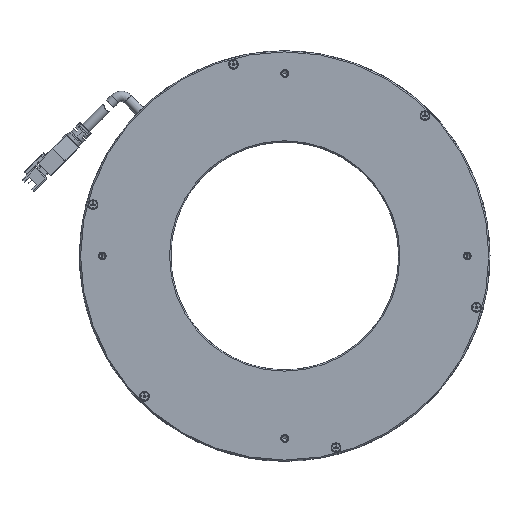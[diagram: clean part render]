
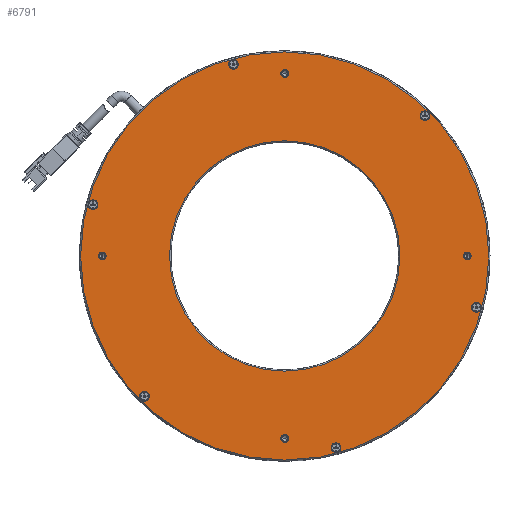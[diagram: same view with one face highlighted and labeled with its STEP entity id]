
A CAD part, top view. The second image highlights one B-rep face of the part: STEP entity #6791.
In plain terms, the highlighted planar face has unit normal (0, 0, 1).
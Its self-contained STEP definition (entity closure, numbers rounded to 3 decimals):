
#505=CARTESIAN_POINT('',(0.,0.,2.));
#506=DIRECTION('',(0.,0.,-1.));
#507=DIRECTION('',(0.,1.,0.));
#508=AXIS2_PLACEMENT_3D('',#505,#506,#507);
#510=CARTESIAN_POINT('',(0.,0.,2.));
#511=DIRECTION('',(0.,0.,-1.));
#512=DIRECTION('',(0.,-1.,0.));
#513=AXIS2_PLACEMENT_3D('',#510,#511,#512);
#515=CARTESIAN_POINT('',(-80.,0.,2.));
#516=DIRECTION('',(0.,0.,-1.));
#517=DIRECTION('',(0.,-1.,0.));
#518=AXIS2_PLACEMENT_3D('',#515,#516,#517);
#520=CARTESIAN_POINT('',(-80.,0.,2.));
#521=DIRECTION('',(0.,0.,-1.));
#522=DIRECTION('',(0.,1.,0.));
#523=AXIS2_PLACEMENT_3D('',#520,#521,#522);
#525=CARTESIAN_POINT('',(0.,-80.,2.));
#526=DIRECTION('',(0.,0.,-1.));
#527=DIRECTION('',(1.,0.,0.));
#528=AXIS2_PLACEMENT_3D('',#525,#526,#527);
#530=CARTESIAN_POINT('',(0.,-80.,2.));
#531=DIRECTION('',(0.,0.,-1.));
#532=DIRECTION('',(-1.,0.,0.));
#533=AXIS2_PLACEMENT_3D('',#530,#531,#532);
#535=CARTESIAN_POINT('',(80.,0.,2.));
#536=DIRECTION('',(0.,0.,-1.));
#537=DIRECTION('',(0.,1.,0.));
#538=AXIS2_PLACEMENT_3D('',#535,#536,#537);
#540=CARTESIAN_POINT('',(80.,0.,2.));
#541=DIRECTION('',(0.,0.,-1.));
#542=DIRECTION('',(0.,-1.,0.));
#543=AXIS2_PLACEMENT_3D('',#540,#541,#542);
#545=CARTESIAN_POINT('',(0.,80.,2.));
#546=DIRECTION('',(0.,0.,-1.));
#547=DIRECTION('',(-1.,0.,0.));
#548=AXIS2_PLACEMENT_3D('',#545,#546,#547);
#550=CARTESIAN_POINT('',(0.,80.,2.));
#551=DIRECTION('',(0.,0.,-1.));
#552=DIRECTION('',(1.,0.,0.));
#553=AXIS2_PLACEMENT_3D('',#550,#551,#552);
#555=CARTESIAN_POINT('',(-22.517,84.036,2.));
#556=DIRECTION('',(0.,0.,-1.));
#557=DIRECTION('',(-0.5,-0.866,0.));
#558=AXIS2_PLACEMENT_3D('',#555,#556,#557);
#560=CARTESIAN_POINT('',(-22.517,84.036,2.));
#561=DIRECTION('',(0.,0.,-1.));
#562=DIRECTION('',(0.5,0.866,0.));
#563=AXIS2_PLACEMENT_3D('',#560,#561,#562);
#565=CARTESIAN_POINT('',(-84.036,22.517,2.));
#566=DIRECTION('',(0.,0.,-1.));
#567=DIRECTION('',(0.5,-0.866,0.));
#568=AXIS2_PLACEMENT_3D('',#565,#566,#567);
#570=CARTESIAN_POINT('',(-84.036,22.517,2.));
#571=DIRECTION('',(0.,0.,-1.));
#572=DIRECTION('',(-0.5,0.866,0.));
#573=AXIS2_PLACEMENT_3D('',#570,#571,#572);
#575=CARTESIAN_POINT('',(-61.518,-61.518,2.));
#576=DIRECTION('',(0.,0.,-1.));
#577=DIRECTION('',(1.,0.,0.));
#578=AXIS2_PLACEMENT_3D('',#575,#576,#577);
#580=CARTESIAN_POINT('',(-61.518,-61.518,2.));
#581=DIRECTION('',(0.,0.,-1.));
#582=DIRECTION('',(-1.,0.,0.));
#583=AXIS2_PLACEMENT_3D('',#580,#581,#582);
#585=CARTESIAN_POINT('',(22.517,-84.036,2.));
#586=DIRECTION('',(0.,0.,-1.));
#587=DIRECTION('',(0.5,0.866,0.));
#588=AXIS2_PLACEMENT_3D('',#585,#586,#587);
#590=CARTESIAN_POINT('',(22.517,-84.036,2.));
#591=DIRECTION('',(0.,0.,-1.));
#592=DIRECTION('',(-0.5,-0.866,0.));
#593=AXIS2_PLACEMENT_3D('',#590,#591,#592);
#595=CARTESIAN_POINT('',(84.036,-22.517,2.));
#596=DIRECTION('',(0.,0.,-1.));
#597=DIRECTION('',(-0.5,0.866,0.));
#598=AXIS2_PLACEMENT_3D('',#595,#596,#597);
#600=CARTESIAN_POINT('',(84.036,-22.517,2.));
#601=DIRECTION('',(0.,0.,-1.));
#602=DIRECTION('',(0.5,-0.866,0.));
#603=AXIS2_PLACEMENT_3D('',#600,#601,#602);
#605=CARTESIAN_POINT('',(61.518,61.518,2.));
#606=DIRECTION('',(0.,0.,-1.));
#607=DIRECTION('',(-1.,0.,0.));
#608=AXIS2_PLACEMENT_3D('',#605,#606,#607);
#610=CARTESIAN_POINT('',(61.518,61.518,2.));
#611=DIRECTION('',(0.,0.,-1.));
#612=DIRECTION('',(1.,0.,0.));
#613=AXIS2_PLACEMENT_3D('',#610,#611,#612);
#615=CARTESIAN_POINT('',(0.,0.,2.));
#616=DIRECTION('',(0.,0.,1.));
#617=DIRECTION('',(0.,-1.,0.));
#618=AXIS2_PLACEMENT_3D('',#615,#616,#617);
#620=CARTESIAN_POINT('',(0.,0.,2.));
#621=DIRECTION('',(0.,0.,1.));
#622=DIRECTION('',(0.,1.,0.));
#623=AXIS2_PLACEMENT_3D('',#620,#621,#622);
#4815=CARTESIAN_POINT('',(0.,89.5,2.));
#4816=CARTESIAN_POINT('',(0.,-89.5,2.));
#4817=VERTEX_POINT('',#4815);
#4818=VERTEX_POINT('',#4816);
#4819=CARTESIAN_POINT('',(63.668,61.518,2.));
#4820=CARTESIAN_POINT('',(59.368,61.518,2.));
#4821=VERTEX_POINT('',#4819);
#4822=VERTEX_POINT('',#4820);
#4823=CARTESIAN_POINT('',(85.111,-24.379,2.));
#4824=CARTESIAN_POINT('',(82.961,-20.655,2.));
#4825=VERTEX_POINT('',#4823);
#4826=VERTEX_POINT('',#4824);
#4827=CARTESIAN_POINT('',(21.442,-85.898,2.));
#4828=CARTESIAN_POINT('',(23.592,-82.174,2.));
#4829=VERTEX_POINT('',#4827);
#4830=VERTEX_POINT('',#4828);
#4831=CARTESIAN_POINT('',(-63.668,-61.518,2.));
#4832=CARTESIAN_POINT('',(-59.368,-61.518,2.));
#4833=VERTEX_POINT('',#4831);
#4834=VERTEX_POINT('',#4832);
#4835=CARTESIAN_POINT('',(-85.111,24.379,2.));
#4836=CARTESIAN_POINT('',(-82.961,20.655,2.));
#4837=VERTEX_POINT('',#4835);
#4838=VERTEX_POINT('',#4836);
#4839=CARTESIAN_POINT('',(-21.442,85.898,2.));
#4840=CARTESIAN_POINT('',(-23.592,82.174,2.));
#4841=VERTEX_POINT('',#4839);
#4842=VERTEX_POINT('',#4840);
#4843=CARTESIAN_POINT('',(1.7,80.,2.));
#4844=CARTESIAN_POINT('',(-1.7,80.,2.));
#4845=VERTEX_POINT('',#4843);
#4846=VERTEX_POINT('',#4844);
#4847=CARTESIAN_POINT('',(80.,-1.7,2.));
#4848=CARTESIAN_POINT('',(80.,1.7,2.));
#4849=VERTEX_POINT('',#4847);
#4850=VERTEX_POINT('',#4848);
#4851=CARTESIAN_POINT('',(-1.7,-80.,2.));
#4852=CARTESIAN_POINT('',(1.7,-80.,2.));
#4853=VERTEX_POINT('',#4851);
#4854=VERTEX_POINT('',#4852);
#4855=CARTESIAN_POINT('',(-80.,1.7,2.));
#4856=CARTESIAN_POINT('',(-80.,-1.7,2.));
#4857=VERTEX_POINT('',#4855);
#4858=VERTEX_POINT('',#4856);
#4859=CARTESIAN_POINT('',(0.,-50.5,2.));
#4860=CARTESIAN_POINT('',(0.,50.5,2.));
#4861=VERTEX_POINT('',#4859);
#4862=VERTEX_POINT('',#4860);
#6716=CARTESIAN_POINT('',(0.,0.,2.));
#6717=DIRECTION('',(0.,0.,-1.));
#6718=DIRECTION('',(0.,-1.,0.));
#6719=AXIS2_PLACEMENT_3D('',#6716,#6717,#6718);
#6720=PLANE('',#6719);
#6722=ORIENTED_EDGE('',*,*,#6721,.F.);
#6724=ORIENTED_EDGE('',*,*,#6723,.F.);
#6725=EDGE_LOOP('',(#6722,#6724));
#6726=FACE_OUTER_BOUND('',#6725,.F.);
#6728=ORIENTED_EDGE('',*,*,#6727,.F.);
#6730=ORIENTED_EDGE('',*,*,#6729,.F.);
#6731=EDGE_LOOP('',(#6728,#6730));
#6732=FACE_BOUND('',#6731,.F.);
#6734=ORIENTED_EDGE('',*,*,#6733,.F.);
#6736=ORIENTED_EDGE('',*,*,#6735,.F.);
#6737=EDGE_LOOP('',(#6734,#6736));
#6738=FACE_BOUND('',#6737,.F.);
#6740=ORIENTED_EDGE('',*,*,#6739,.F.);
#6742=ORIENTED_EDGE('',*,*,#6741,.F.);
#6743=EDGE_LOOP('',(#6740,#6742));
#6744=FACE_BOUND('',#6743,.F.);
#6746=ORIENTED_EDGE('',*,*,#6745,.F.);
#6748=ORIENTED_EDGE('',*,*,#6747,.F.);
#6749=EDGE_LOOP('',(#6746,#6748));
#6750=FACE_BOUND('',#6749,.F.);
#6752=ORIENTED_EDGE('',*,*,#6751,.F.);
#6754=ORIENTED_EDGE('',*,*,#6753,.F.);
#6755=EDGE_LOOP('',(#6752,#6754));
#6756=FACE_BOUND('',#6755,.F.);
#6758=ORIENTED_EDGE('',*,*,#6757,.F.);
#6760=ORIENTED_EDGE('',*,*,#6759,.F.);
#6761=EDGE_LOOP('',(#6758,#6760));
#6762=FACE_BOUND('',#6761,.F.);
#6764=ORIENTED_EDGE('',*,*,#6763,.F.);
#6766=ORIENTED_EDGE('',*,*,#6765,.F.);
#6767=EDGE_LOOP('',(#6764,#6766));
#6768=FACE_BOUND('',#6767,.F.);
#6770=ORIENTED_EDGE('',*,*,#6769,.F.);
#6772=ORIENTED_EDGE('',*,*,#6771,.F.);
#6773=EDGE_LOOP('',(#6770,#6772));
#6774=FACE_BOUND('',#6773,.F.);
#6776=ORIENTED_EDGE('',*,*,#6775,.F.);
#6778=ORIENTED_EDGE('',*,*,#6777,.F.);
#6779=EDGE_LOOP('',(#6776,#6778));
#6780=FACE_BOUND('',#6779,.F.);
#6782=ORIENTED_EDGE('',*,*,#6781,.F.);
#6784=ORIENTED_EDGE('',*,*,#6783,.F.);
#6785=EDGE_LOOP('',(#6782,#6784));
#6786=FACE_BOUND('',#6785,.F.);
#6787=ORIENTED_EDGE('',*,*,#6709,.F.);
#6788=ORIENTED_EDGE('',*,*,#6695,.F.);
#6789=EDGE_LOOP('',(#6787,#6788));
#6790=FACE_BOUND('',#6789,.F.);
#6791=ADVANCED_FACE('',(#6726,#6732,#6738,#6744,#6750,#6756,#6762,#6768,#6774,
#6780,#6786,#6790),#6720,.F.);
#509=CIRCLE('',#508,50.5);
#514=CIRCLE('',#513,50.5);
#519=CIRCLE('',#518,1.7);
#524=CIRCLE('',#523,1.7);
#529=CIRCLE('',#528,1.7);
#534=CIRCLE('',#533,1.7);
#539=CIRCLE('',#538,1.7);
#544=CIRCLE('',#543,1.7);
#549=CIRCLE('',#548,1.7);
#554=CIRCLE('',#553,1.7);
#559=CIRCLE('',#558,2.15);
#564=CIRCLE('',#563,2.15);
#569=CIRCLE('',#568,2.15);
#574=CIRCLE('',#573,2.15);
#579=CIRCLE('',#578,2.15);
#584=CIRCLE('',#583,2.15);
#589=CIRCLE('',#588,2.15);
#594=CIRCLE('',#593,2.15);
#599=CIRCLE('',#598,2.15);
#604=CIRCLE('',#603,2.15);
#609=CIRCLE('',#608,2.15);
#614=CIRCLE('',#613,2.15);
#619=CIRCLE('',#618,89.5);
#624=CIRCLE('',#623,89.5);
#6695=EDGE_CURVE('',#4861,#4862,#514,.T.);
#6709=EDGE_CURVE('',#4862,#4861,#509,.T.);
#6721=EDGE_CURVE('',#4818,#4817,#619,.T.);
#6723=EDGE_CURVE('',#4817,#4818,#624,.T.);
#6727=EDGE_CURVE('',#4858,#4857,#519,.T.);
#6729=EDGE_CURVE('',#4857,#4858,#524,.T.);
#6733=EDGE_CURVE('',#4854,#4853,#529,.T.);
#6735=EDGE_CURVE('',#4853,#4854,#534,.T.);
#6739=EDGE_CURVE('',#4850,#4849,#539,.T.);
#6741=EDGE_CURVE('',#4849,#4850,#544,.T.);
#6745=EDGE_CURVE('',#4846,#4845,#549,.T.);
#6747=EDGE_CURVE('',#4845,#4846,#554,.T.);
#6751=EDGE_CURVE('',#4842,#4841,#559,.T.);
#6753=EDGE_CURVE('',#4841,#4842,#564,.T.);
#6757=EDGE_CURVE('',#4838,#4837,#569,.T.);
#6759=EDGE_CURVE('',#4837,#4838,#574,.T.);
#6763=EDGE_CURVE('',#4834,#4833,#579,.T.);
#6765=EDGE_CURVE('',#4833,#4834,#584,.T.);
#6769=EDGE_CURVE('',#4830,#4829,#589,.T.);
#6771=EDGE_CURVE('',#4829,#4830,#594,.T.);
#6775=EDGE_CURVE('',#4826,#4825,#599,.T.);
#6777=EDGE_CURVE('',#4825,#4826,#604,.T.);
#6781=EDGE_CURVE('',#4822,#4821,#609,.T.);
#6783=EDGE_CURVE('',#4821,#4822,#614,.T.);
